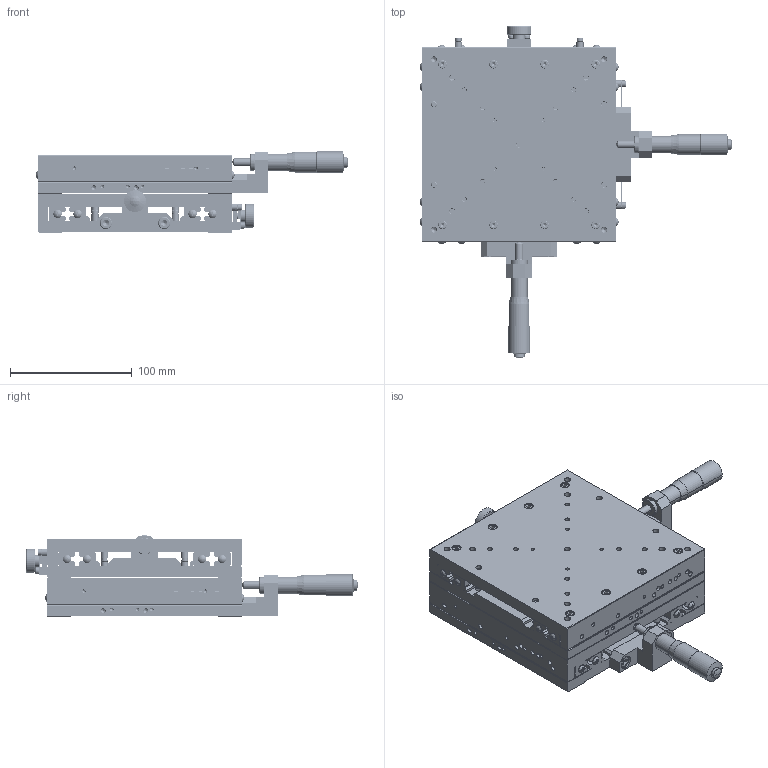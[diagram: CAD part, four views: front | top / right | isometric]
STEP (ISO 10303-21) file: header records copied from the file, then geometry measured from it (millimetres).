
FILE_DESCRIPTION (( 'STEP AP214' ), '1' );
FILE_NAME ('YM16A-C1.STEP', '2009-05-12T00:04:31', ( ' ' ), ( ' ' ), 'SwSTEP 2.0', 'SolidWorks 2008', '' );
FILE_SCHEMA (( 'AUTOMOTIVE_DESIGN' ));
Length unit declared in the file: millimetre
Products named in the file (10): 000090-1021(3D)-Part-2-1; YM16A-C1; 000090-1021(3D)-Part-1; 000090-1021(3D); XM16A-C1(PL); XM16A-C1(PL)-1; 000090-1012(3D); 000090-1021(3D)-Part-2; 000090-1021(3D)-Part-1-1; 000090-1021(3D)-1
Assembly tree (9 placements, depth 4):
  YM16A-C1
    XM16A-C1(PL)
      000090-1021(3D)
        000090-1021(3D)-Part-2
        000090-1021(3D)-Part-1
      000090-1012(3D)
    XM16A-C1(PL)-1
      000090-1021(3D)-1
        000090-1021(3D)-Part-1-1
        000090-1021(3D)-Part-2-1
Bounding box: 257.37 x 273 x 67 mm (x, y, z)
Volume: 1398833.9 mm3; surface area: 356589.1 mm2
Topology: 5 solids, 113 shells, 3734 faces, 8634 edges, 5116 vertices
Faces by surface type: plane 1638, cylinder 1172, cone 852, sphere 40, torus 32
Entity records: 104693 total; most frequent: DIRECTION 19626, CARTESIAN_POINT 17672, ORIENTED_EDGE 16860, EDGE_CURVE 8430, AXIS2_PLACEMENT_3D 7534, VERTEX_POINT 5116, VECTOR 4558, LINE 4558
